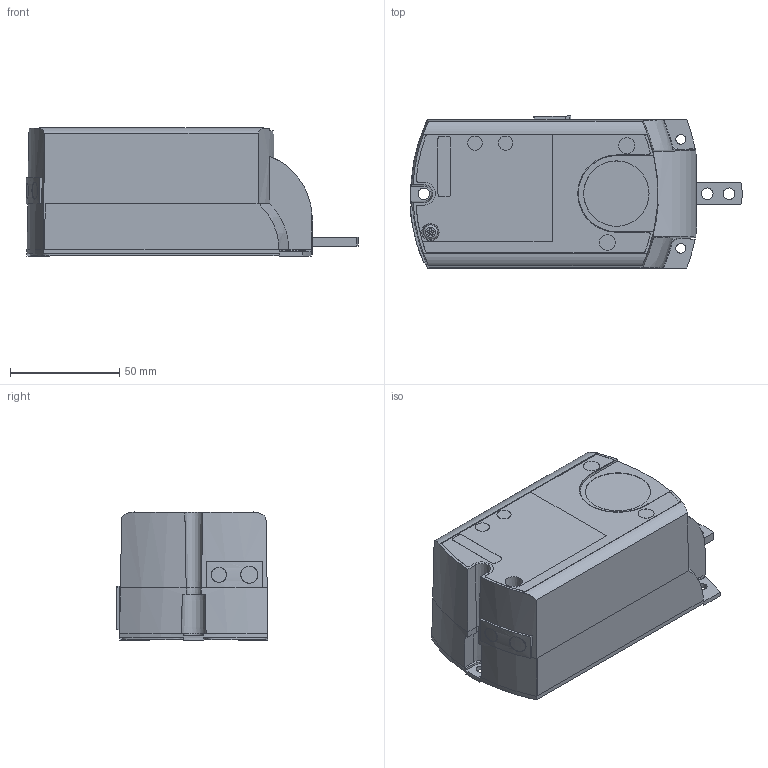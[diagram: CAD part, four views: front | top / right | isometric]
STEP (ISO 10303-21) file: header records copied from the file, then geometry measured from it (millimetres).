
FILE_DESCRIPTION(/* description */ (''),/* implementation_level */ '2;1');
FILE_NAME(/* name */ 'GDB..2E.stp',/* time_stamp */ '2014-09-16T10:56:16+02:00',/* author */ (''),/* organization */ (''),/* preprocessor_version */ 'ST-DEVELOPER v15',/* originating_system */ 'SIEMENS PLM Software NX 8.5',/* authorisation */ '');
FILE_SCHEMA (('AUTOMOTIVE_DESIGN { 1 0 10303 214 3 1 1 1 }'));
Length unit declared in the file: millimetre
Products named in the file (1): 8000077210_01
Bounding box: 152.16 x 69.65 x 58.7 mm (x, y, z)
Volume: 443417.1 mm3; surface area: 40509 mm2
Topology: 1 solids, 1 shells, 321 faces, 1235 edges, 1300 vertices
Faces by surface type: plane 165, cylinder 121, bspline 16, cone 11, torus 6, extrusion 2
Full cylindrical faces by diameter (mm): 1 x1, 3.2 x2, 4.5 x2, 5.3 x1, 5.354 x2, 5.4 x4, 6.6 x2, 6.9 x1, 7.3 x1, 7.4 x1, 7.8 x1, 7.9 x1
Entity records: 17493 total; most frequent: CARTESIAN_POINT 4498, DIRECTION 2019, ORIENTED_EDGE 1674, EDGE_CURVE 837, AXIS2_PLACEMENT_3D 692, PRESENTATION_STYLE_ASSIGNMENT 683, VECTOR 635, LINE 633
